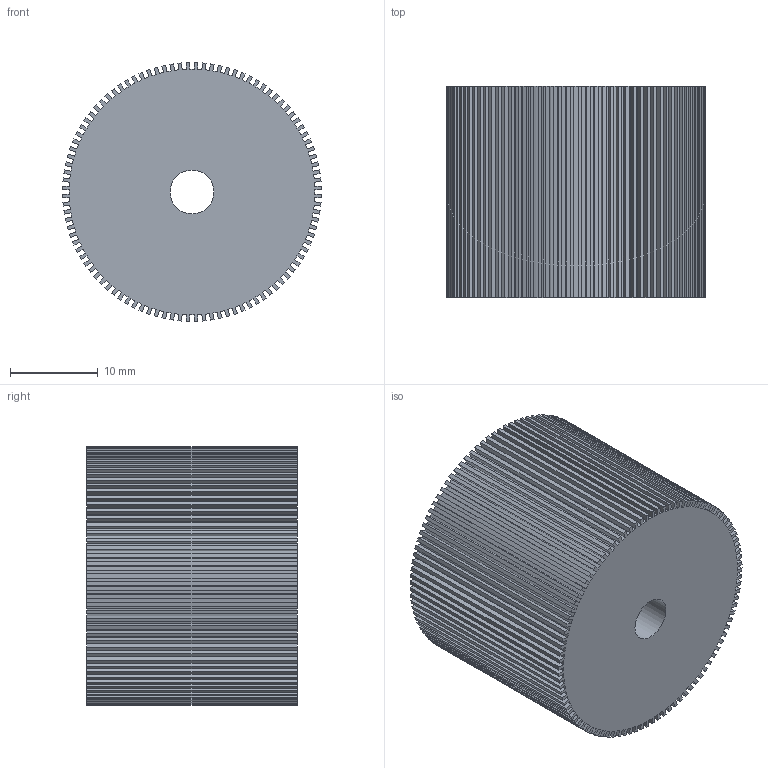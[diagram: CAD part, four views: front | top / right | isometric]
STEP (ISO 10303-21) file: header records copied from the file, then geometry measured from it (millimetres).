
FILE_DESCRIPTION(/* description */ ('STEP AP242 Edition 2','CAx-IF Rec.Pracs.---Representation and Presentation of Product Manufacturing Information (PMI)---4.0---2014-10-13','CAx-IF Rec.Pracs.---3D Tessellated Geometry---0.4---2014-09-14','2;1','CAx-IF Rec.Pracs.---User Defined Attributes---1.5---2016-08-15'),/* implementation_level */ '2;1');
FILE_NAME(/* name */ 'Assembly V2 - Nema 17 v4',/* time_stamp */ '2026-02-05T22:44:39Z',/* author */ (''),/* organization */ (''),/* preprocessor_version */ 'ST-DEVELOPER v20',/* originating_system */ 'ONSHAPE BY PTC INC, 1.210',/* authorisation */ ' ');
FILE_SCHEMA (('AP242_MANAGED_MODEL_BASED_3D_ENGINEERING_MIM_LF { 1 0 10303 442 3 1 4 }'));
Length unit declared in the file: metre
Products named in the file (1): Nema 17 v4
Bounding box: 29.5 x 24 x 29.5 mm (x, y, z)
Volume: 15033.4 mm3; surface area: 7443.8 mm2
Topology: 1 solids, 1 shells, 403 faces, 1203 edges, 802 vertices
Faces by surface type: plane 302, cylinder 101
Full cylindrical faces by diameter (mm): 5 x1
Entity records: 13480 total; most frequent: CARTESIAN_POINT 2408, ORIENTED_EDGE 2404, DIRECTION 2212, EDGE_CURVE 1202, LINE 1000, VECTOR 1000, VERTEX_POINT 802, AXIS2_PLACEMENT_3D 606
